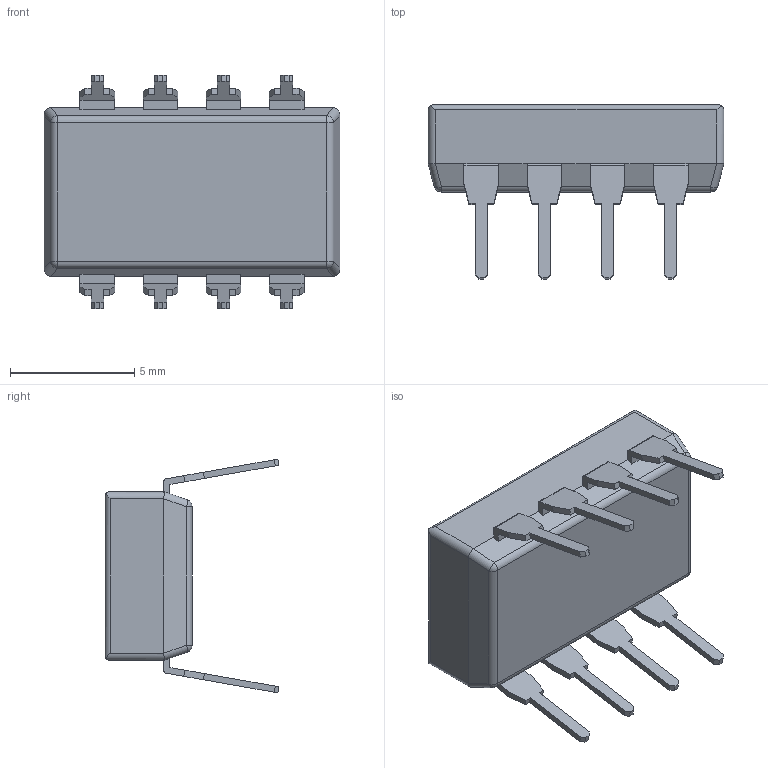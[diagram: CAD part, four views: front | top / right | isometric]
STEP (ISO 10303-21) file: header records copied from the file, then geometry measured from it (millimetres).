
FILE_DESCRIPTION (( 'STEP AP214' ), '1' );
FILE_NAME ('SSGM240100.STEP', '2011-04-13T01:07:31', ( '' ), ( '' ), 'SwSTEP 2.0', 'SolidWorks 2007', '' );
FILE_SCHEMA (( 'AUTOMOTIVE_DESIGN' ));
Length unit declared in the file: millimetre
Products named in the file (1): SSGM240100
Bounding box: 11.9 x 7 x 9.41 mm (x, y, z)
Volume: 275.8 mm3; surface area: 488 mm2
Topology: 2 solids, 2 shells, 256 faces, 700 edges, 452 vertices
Faces by surface type: plane 216, cylinder 36, sphere 4
Entity records: 10216 total; most frequent: CARTESIAN_POINT 1485, ORIENTED_EDGE 1392, DIRECTION 1238, EDGE_CURVE 696, VECTOR 620, LINE 620, VERTEX_POINT 452, AXIS2_PLACEMENT_3D 309
